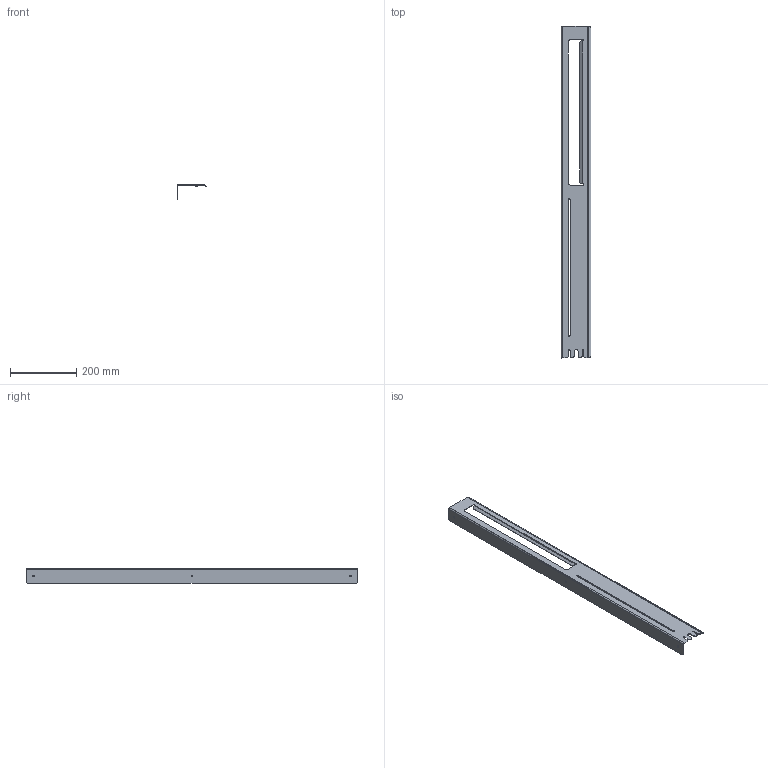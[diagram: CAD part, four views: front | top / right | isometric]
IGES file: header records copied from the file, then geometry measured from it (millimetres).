
Start section: IGES file generated by C3D Converter 1.5 translator by C3D Labs., translator version IGESOUT-5.1.
Global section: file name: D:\×åðòåæè èçäåëèé Âàííà 2023\Ïîëêè Simple Íîâûå\3D\×åðòåæè 22.07.2023\3D\S²MPLE_2_1000_P440_RIGHT.igs; preprocessor: 1.0; author: a.kalenyk83@gmail.com; organization: unknown; date: -17770622:111157; units: millimetre
Bounding box: 88.5 x 1000 x 45 mm (x, y, z)
Volume: 172516.1 mm3; surface area: 236395.2 mm2
Topology: 1 solids, 1 shells, 68 faces, 174 edges, 108 vertices
Faces by surface type: bspline 37, revolution 31
